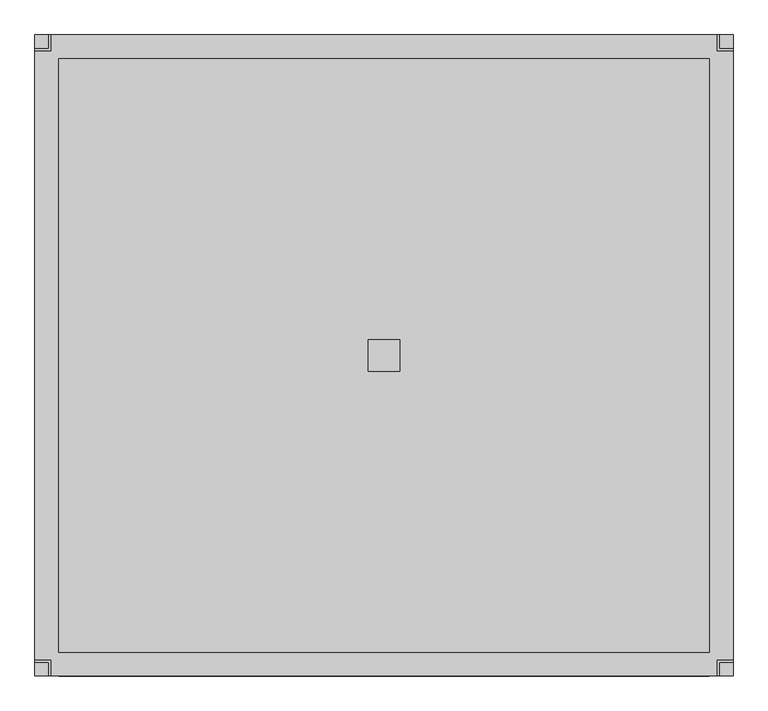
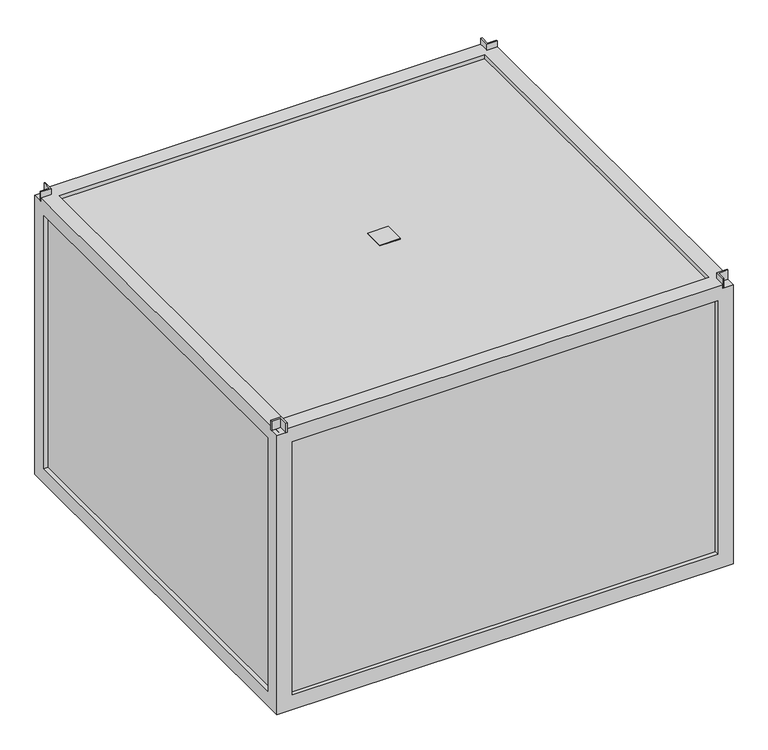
"""IFC4 building model written with IfcOpenShell, lengths in millimetres: proxy geometry, KORF_Вентилятор_UTR_WRH : UTR 80-50 WRH 45.4D (М)."""

from ifc_helpers import new_model, si_unit, frame, origin, place, context, project, spatial, polyline, outline, extrude, faceted_brep, source, transform, mapped, element, save


def mechanical_equipment_f1bd4714(model_context):
    return source(origin(), model_context, "Body", "SolidModel", [
        extrude(outline(polyline([(525.0, -25.0), (525.0, 25.0), (575.0, 25.0), (575.0, -25.0), (525.0, -25.0)])), frame((0.0, 0.0, 360.0), z_axis=(0.0, 0.0, 1.0), x_axis=(1.0, 0.0, 0.0)), (0.0, 0.0, 1.0), 2.0),
        extrude(outline(polyline([(25.0, 480.0), (0.0, 480.0), (0.0, 483.0), (22.0, 483.0), (22.0, 505.0), (25.0, 505.0), (25.0, 480.0)])), frame((0.0, 0.0, 351.0), z_axis=(0.0, 0.0, 1.0), x_axis=(1.0, 0.0, 0.0)), (0.0, 0.0, 1.0), 24.0),
        extrude(outline(polyline([(1075.0, 480.0), (1075.0, 505.0), (1078.0, 505.0), (1078.0, 483.0), (1100.0, 483.0), (1100.0, 480.0), (1075.0, 480.0)])), frame((0.0, 0.0, 351.0), z_axis=(0.0, 0.0, 1.0), x_axis=(1.0, 0.0, 0.0)), (0.0, 0.0, 1.0), 24.0),
        extrude(outline(polyline([(25.0, -480.0), (25.0, -505.0), (22.0, -505.0), (22.0, -483.0), (0.0, -483.0), (0.0, -480.0), (25.0, -480.0)])), frame((0.0, 0.0, 351.0), z_axis=(0.0, 0.0, 1.0), x_axis=(1.0, 0.0, 0.0)), (0.0, 0.0, 1.0), 24.0),
        extrude(outline(polyline([(1075.0, -480.0), (1100.0, -480.0), (1100.0, -483.0), (1078.0, -483.0), (1078.0, -505.0), (1075.0, -505.0), (1075.0, -480.0)])), frame((0.0, 0.0, 351.0), z_axis=(0.0, 0.0, 1.0), x_axis=(1.0, 0.0, 0.0)), (0.0, 0.0, 1.0), 24.0),
        extrude(outline(polyline([(1090.0, 495.0), (1090.0, -495.0), (10.0, -495.0), (10.0, 495.0), (1090.0, 495.0)])), frame((0.0, 0.0, -350.0), z_axis=(0.0, 0.0, 1.0), x_axis=(1.0, 0.0, 0.0)), (0.0, 0.0, 1.0), 700.0),
        faceted_brep([(0.0, -504.9999993, -359.9999993), (1100.0, -504.9999993, -359.9999993), (1099.9999993, -504.9999993, 351.0), (1075.0, -504.9999993, 351.0), (1075.0, -504.9999993, 360.0), (25.0, -504.9999993, 359.9999993), (25.0, -504.9999993, 351.0), (0.0, -504.9999993, 351.0), (37.5, -504.9999993, -322.4999993), (37.5, -504.9999993, 322.5), (1062.4999993, -504.9999993, 322.5), (1062.4999993, -504.9999993, -322.4999993), (10.000001, -494.9999993, -349.9999993), (10.000001, -494.9999993, 349.9999993), (1089.9999993, -494.9999993, 349.999999), (1089.999999, -494.9999993, -349.9999993), (37.5, -494.9999993, 322.5), (37.5, -494.9999993, -322.4999993), (1062.4999993, -494.9999993, -322.4999993), (1062.4999993, -494.9999993, 322.5), (0.0, -467.4999993, 322.4999993), (10.000001, -467.4999993, 322.4999993), (10.000001, -467.4999993, -322.4999993), (0.0, -467.4999993, -322.4999993), (0.0, 504.9999993, -359.9999993), (1100.0, 505.0, -359.9999993), (1062.5, -467.5, -359.9999993), (1062.5, 467.5, -359.9999993), (37.5, 467.5, -359.9999993), (37.5, -467.5, -359.9999993), (10.000001, 494.9999993, -349.9999993), (1089.999999, 494.999999, -349.9999993), (1062.5, 467.5, -349.9999993), (1062.5, -467.5, -349.9999993), (37.5, -467.5, -349.9999993), (37.5, 467.5, -349.9999993), (10.000001, 467.4999993, -322.4999993), (0.0, 467.4999993, -322.4999993), (0.0, 504.9999993, 351.0), (25.0, 504.9999993, 351.0), (25.0, 504.9999993, 359.9999993), (1075.0, 504.9999993, 360.0), (1075.0, 504.9999993, 351.0), (1099.9999993, 504.9999993, 351.0), (37.5, 504.9999993, 322.5), (37.5, 504.9999993, -322.4999993), (1062.4999993, 504.9999993, -322.4999993), (1062.4999993, 504.9999993, 322.5), (10.000001, 494.9999993, 349.9999993), (1089.9999993, 494.9999993, 349.999999), (37.5, 494.9999993, -322.4999993), (37.5, 494.9999993, 322.5), (1062.4999993, 494.9999993, 322.5), (1062.4999993, 494.9999993, -322.4999993), (10.000001, 467.4999993, 322.4999993), (0.0, 467.4999993, 322.4999993), (0.0, -480.0, 351.0), (0.0, -480.0, 359.9999993), (0.0, 480.0, 359.9999993), (0.0, 480.0, 351.0), (1075.0, -480.0, 359.9999993), (1099.9999993, -480.0, 359.9999993), (1099.9999993, 480.0, 359.9999993), (1075.0, 480.0, 359.9999993), (25.0, 480.0, 359.9999993), (25.0, -480.0, 359.9999993), (1062.4999993, 467.4999993, 359.9999993), (1062.4999993, -467.4999993, 359.9999993), (37.5000007, -467.4999993, 359.9999993), (37.5, 467.4999993, 359.9999993), (37.5, -467.4999993, 349.9999993), (37.5, 467.4999993, 349.9999993), (1062.4999993, -467.4999993, 349.9999993), (1062.4999993, 467.4999993, 349.9999993), (1099.9999993, 480.0, 351.0), (1099.9999993, -480.0, 351.0), (1099.9999993, -467.5, -322.5), (1099.9999993, -467.5, 322.5), (1099.9999993, 467.5, 322.5), (1099.9999993, 467.5, -322.5), (1089.9999993, -467.5, 322.5), (1089.9999993, -467.5, -322.5), (1089.9999993, 467.5, -322.4999993), (1089.9999993, 467.5, 322.5), (25.0, 480.0, 351.0), (1075.0, 480.0, 351.0), (1075.0, -480.0, 351.0), (25.0, -480.0, 351.0)], [[[0, 1, 2, 3, 4, 5, 6, 7], [8, 9, 10, 11]], [[12, 13, 14, 15], [16, 17, 18, 19]], [[20, 21, 22, 23]], [[0, 24, 25, 1], [26, 27, 28, 29]], [[30, 12, 15, 31], [32, 33, 34, 35]], [[23, 22, 36, 37]], [[25, 24, 38, 39, 40, 41, 42, 43], [44, 45, 46, 47]], [[48, 30, 31, 49], [50, 51, 52, 53]], [[37, 36, 54, 55]], [[24, 0, 7, 56, 57, 58, 59, 38], [20, 23, 37, 55]], [[5, 4, 60, 61, 62, 63, 41, 40, 64, 58, 57, 65], [66, 67, 68, 69]], [[35, 34, 29, 28]], [[69, 68, 70, 71]], [[16, 9, 8, 17]], [[44, 51, 50, 45]], [[13, 48, 49, 14], [72, 73, 71, 70]], [[12, 30, 48, 13], [22, 21, 54, 36]], [[21, 20, 55, 54]], [[1, 25, 43, 74, 62, 61, 75, 2], [76, 77, 78, 79]], [[14, 49, 31, 15], [80, 81, 82, 83]], [[66, 73, 72, 67]], [[67, 72, 70, 68]], [[9, 16, 19, 10]], [[51, 44, 47, 52]], [[80, 83, 78, 77]], [[73, 66, 69, 71]], [[32, 27, 26, 33]], [[33, 26, 29, 34]], [[27, 32, 35, 28]], [[17, 8, 11, 18]], [[45, 50, 53, 46]], [[76, 79, 82, 81]], [[77, 76, 81, 80]], [[79, 78, 83, 82]], [[11, 10, 19, 18]], [[47, 46, 53, 52]], [[59, 84, 39, 38]], [[42, 85, 74, 43]], [[75, 86, 3, 2]], [[87, 56, 7, 6]], [[84, 59, 58, 64]], [[39, 84, 64, 40]], [[85, 42, 41, 63]], [[74, 85, 63, 62]], [[86, 75, 61, 60]], [[3, 86, 60, 4]], [[56, 87, 65, 57]], [[87, 6, 5, 65]]]),
    ])


if __name__ == "__main__":
    model = new_model("IFC4")
    model_context = context("Model", 3, world=origin())
    ifc_project = project(units=[si_unit("LENGTHUNIT", "METRE", prefix="MILLI")], contexts=[model_context])
    site = spatial("IfcSite", under=ifc_project)
    building = spatial("IfcBuilding", under=site)
    placement = place(None, origin())
    mechanical_equipment_shape = mechanical_equipment_f1bd4714(model_context)
    element("IfcBuildingElementProxy", 1, Name="KORF_Вентилятор_UTR_WRH : UTR 80-50 WRH 45.4D (М)", ObjectType="KORF_Вентилятор_UTR_WRH : UTR 80-50 WRH 45.4D (М)", at=placement, inside=building, context=model_context, shape_type="MappedRepresentation", body=[
        mapped(mechanical_equipment_shape, transform((0.0, 0.0, 0.0), x_axis=(1.0, 0.0, 0.0), y_axis=(0.0, 1.0, 0.0), z_axis=(0.0, 0.0, 1.0))),
    ])
    save(model, "model.ifc")
